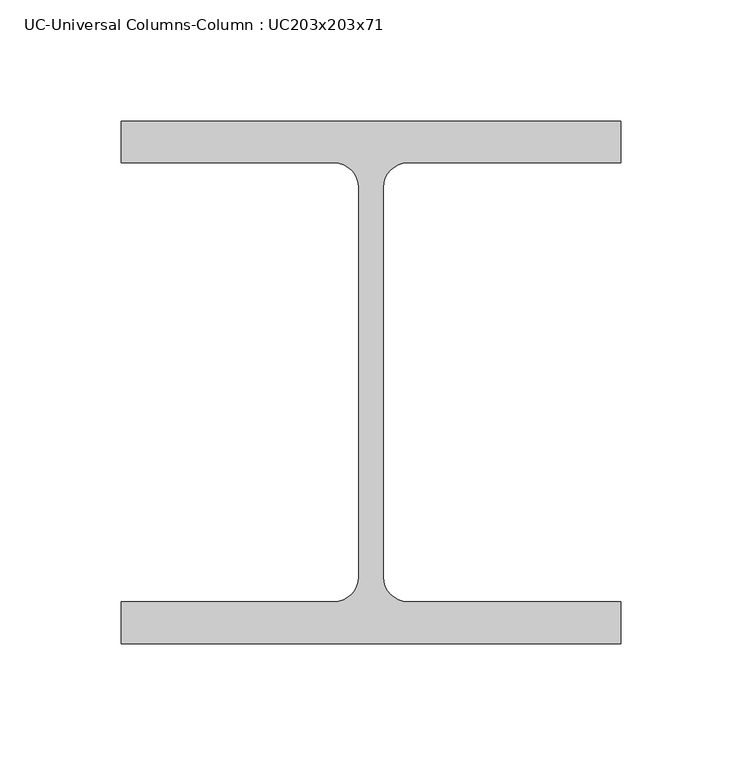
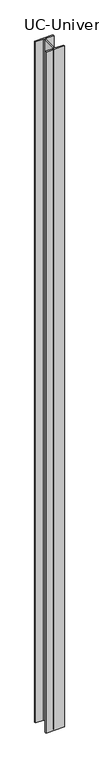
"""IFC4 building model written with IfcOpenShell, lengths in millimetres: column geometry, UC-Universal Columns-Column : UC203x203x71."""

from ifc_helpers import new_model, si_unit, point, frame, frame_2d, origin, place, context, project, spatial, polyline, circle_curve, trimmed, segment, composite_curve, outline, extrude, source, transform, mapped, element, save


def uc_universal_columns_column_uc203x203x71_8376c960(model_context):
    return source(origin(), model_context, "Body", "SweptSolid", [
        extrude(outline(composite_curve([segment(polyline([(103.2, 107.9), (103.2, 90.6), (15.2, 90.6)]), True, "CONTINUOUS"), segment(trimmed(circle_curve(frame_2d((15.2, 80.4)), 10.2), [point((15.2, 90.6))], [point((5.0, 80.4))], True, "CARTESIAN"), True, "CONTINUOUS"), segment(polyline([(5.0, 80.4), (5.0, -80.4)]), True, "CONTINUOUS"), segment(trimmed(circle_curve(frame_2d((15.2, -80.4)), 10.2), [point((5.0, -80.4))], [point((15.2, -90.6))], True, "CARTESIAN"), True, "CONTINUOUS"), segment(polyline([(15.2, -90.6), (103.2, -90.6), (103.2, -107.9), (-103.2, -107.9), (-103.2, -90.6), (-15.2, -90.6)]), True, "CONTINUOUS"), segment(trimmed(circle_curve(frame_2d((-15.2, -80.4)), 10.2), [point((-15.2, -90.6))], [point((-5.0, -80.4))], True, "CARTESIAN"), True, "CONTINUOUS"), segment(polyline([(-5.0, -80.4), (-5.0, 80.4)]), True, "CONTINUOUS"), segment(trimmed(circle_curve(frame_2d((-15.2, 80.4)), 10.2), [point((-5.0, 80.4))], [point((-15.2, 90.6))], True, "CARTESIAN"), True, "CONTINUOUS"), segment(polyline([(-15.2, 90.6), (-103.2, 90.6), (-103.2, 107.9), (103.2, 107.9)]), True, "CONTINUOUS")], self_intersect=False)), frame((0.0, 0.0, -450.0), z_axis=(0.0, 0.0, 1.0), x_axis=(1.0, 0.0, 0.0)), (0.0, 0.0, 1.0), 8045.0),
    ])


if __name__ == "__main__":
    model = new_model("IFC4")
    model_context = context("Model", 3, world=origin())
    ifc_project = project(units=[si_unit("LENGTHUNIT", "METRE", prefix="MILLI")], contexts=[model_context])
    site = spatial("IfcSite", under=ifc_project)
    building = spatial("IfcBuilding", under=site)
    placement = place(None, origin())
    uc_universal_columns_column_uc203x203x71_shape = uc_universal_columns_column_uc203x203x71_8376c960(model_context)
    element("IfcColumn", 1, ObjectType="UC-Universal Columns-Column : UC203x203x71", at=placement, inside=building, context=model_context, shape_type="MappedRepresentation", body=[
        mapped(uc_universal_columns_column_uc203x203x71_shape, transform((0.0, 0.0, 0.0), x_axis=(1.0, 0.0, 0.0), y_axis=(0.0, 1.0, 0.0), z_axis=(0.0, 0.0, 1.0))),
    ])
    save(model, "model.ifc")
